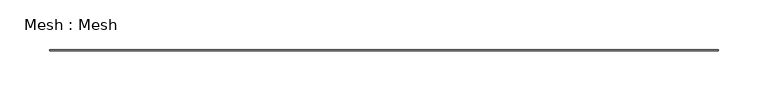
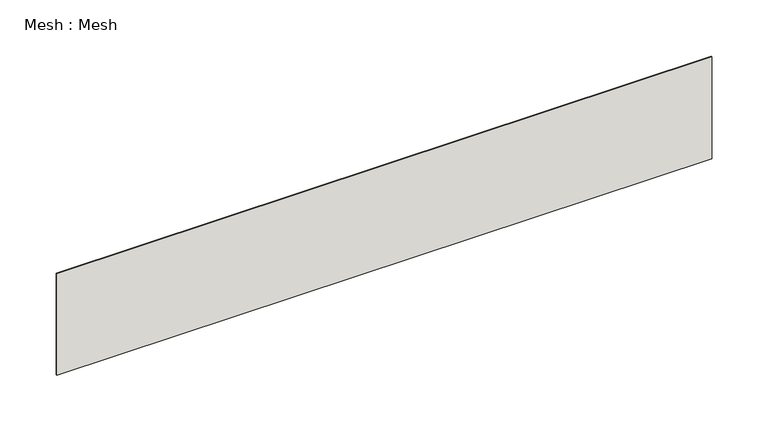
"""IFC4 building model written with IfcOpenShell, lengths in millimetres: wall geometry, Mesh : Mesh."""

from ifc_helpers import new_model, si_unit, frame, origin, place, context, project, spatial, polyline, outline, extrude, source, transform, mapped, element, save


def mesh_mesh_cf3a6a2c(model_context):
    return source(origin(), model_context, "Body", "SweptSolid", [
        extrude(outline(polyline([(20979.9088132, 14946.3863455), (20309.9088132, 14946.3863455), (20309.9088132, 14947.3863455), (20979.9088132, 14947.3863455), (20979.9088132, 14946.3863455)])), frame((0.0, 0.0, 1440.0), z_axis=(0.0, 0.0, 1.0), x_axis=(1.0, 0.0, 0.0)), (0.0, 0.0, 1.0), 110.0),
    ])


if __name__ == "__main__":
    model = new_model("IFC4")
    model_context = context("Model", 3, world=origin())
    ifc_project = project(units=[si_unit("LENGTHUNIT", "METRE", prefix="MILLI")], contexts=[model_context])
    site = spatial("IfcSite", under=ifc_project)
    building = spatial("IfcBuilding", under=site)
    placement = place(None, origin())
    mesh_mesh_shape = mesh_mesh_cf3a6a2c(model_context)
    element("IfcWall", 1, ObjectType="Mesh : Mesh", at=placement, inside=building, context=model_context, shape_type="MappedRepresentation", body=[
        mapped(mesh_mesh_shape, transform((0.0, 0.0, 0.0), x_axis=(1.0, 0.0, 0.0), y_axis=(0.0, 1.0, 0.0), z_axis=(0.0, 0.0, 1.0))),
    ])
    save(model, "model.ifc")
